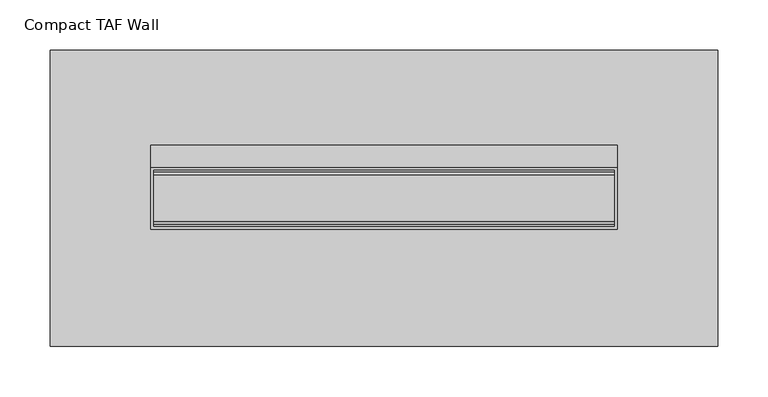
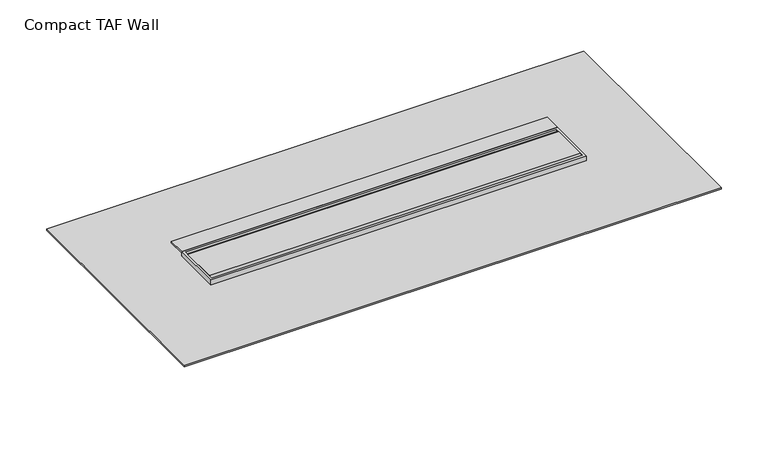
"""IFC4 building model written with IfcOpenShell, lengths in millimetres: sanitary terminal geometry, NLRS_PF_52_UN_Compact TAF_Easydrain : Compact TAF Wall."""

import ifcopenshell
import ifcopenshell.guid

model = None  # the IFC model being written
_history = None  # IfcOwnerHistory: only IFC2X3 demands one
_inside = {}  # id of a spatial element -> (the spatial element, [elements in it])
_under = {}  # id of a project, library or spatial element -> (it, [spatial elements below it])
_declared = {}  # id of a project -> (the project, [libraries it declares])
_typed = {}  # id of a type object -> (the type object, [elements of that type])
_made_of = {}  # id of a material, layer set ... -> (it, [elements and type objects made of it])


def new_model(schema):
    """Start an empty IFC model of exactly this schema.

    Asked for "IFC4X3", IfcOpenShell would pick the latest addendum, in which some entities
    have other attributes; the version numbers below select the first issue.
    IFC2X3 requires an IfcOwnerHistory on every rooted entity: one is made here for all.
    """
    global model, _history
    if schema == "IFC4X3":
        model = ifcopenshell.file(schema_version=(4, 3, 0, 0))
    else:
        model = ifcopenshell.file(schema=schema)
    _inside.clear()
    _under.clear()
    _declared.clear()
    _typed.clear()
    _made_of.clear()
    _history = None
    if model.schema == "IFC2X3":
        org = make("IfcOrganization", Name="unknown")
        user = make(
            "IfcPersonAndOrganization",
            ThePerson=make("IfcPerson", FamilyName="unknown"),
            TheOrganization=org,
        )
        app = make(
            "IfcApplication",
            ApplicationDeveloper=org,
            Version="unknown",
            ApplicationFullName="unknown",
            ApplicationIdentifier="unknown",
        )
        _history = make(
            "IfcOwnerHistory",
            OwningUser=user,
            OwningApplication=app,
            ChangeAction="ADDED",
            CreationDate=0,
        )
    return model


def make(cls, **values):
    """One entity of the class cls with the attributes given. An attribute that is None is left unset."""
    return model.create_entity(
        cls, **{name: value for name, value in values.items() if value is not None}
    )


def rooted(cls, **values):
    """An entity with a GlobalId (a new one), such as an element, a storey or a relation."""
    return make(cls, GlobalId=ifcopenshell.guid.new(), OwnerHistory=_history, **values)


def si_unit(unit_type, name, prefix=None):
    """IfcSIUnit, for example si_unit("LENGTHUNIT", "METRE", prefix="MILLI")."""
    return make("IfcSIUnit", UnitType=unit_type, Prefix=prefix, Name=name)


def assignment(units):
    """IfcUnitAssignment: the units of a project."""
    return None if units is None else make("IfcUnitAssignment", Units=units)


def point(xyz):
    """IfcCartesianPoint."""
    return None if xyz is None else make("IfcCartesianPoint", Coordinates=xyz)


def direction(xyz):
    """IfcDirection."""
    return None if xyz is None else make("IfcDirection", DirectionRatios=xyz)


def frame(location, z_axis=None, x_axis=None):
    """IfcAxis2Placement3D, a coordinate frame: its origin and axes. An axis left out is left unset."""
    return make(
        "IfcAxis2Placement3D",
        Location=point(location),
        Axis=direction(z_axis),
        RefDirection=direction(x_axis),
    )


def frame_2d(location, x_axis=None):
    """IfcAxis2Placement2D, a coordinate frame in the plane: its origin and x axis."""
    return make(
        "IfcAxis2Placement2D", Location=point(location), RefDirection=direction(x_axis)
    )


def origin():
    """The frame at (0, 0, 0) with its axes left unset."""
    return frame((0.0, 0.0, 0.0))


def place(relative_to, where):
    """IfcLocalPlacement: puts the frame where relative to a parent placement (None: the world)."""
    return make(
        "IfcLocalPlacement", PlacementRelTo=relative_to, RelativePlacement=where
    )


def context(
    kind, dimensions, precision=None, world=None, true_north=None, identifier=None
):
    """IfcGeometricRepresentationContext, for example the 3D "Model" context."""
    return make(
        "IfcGeometricRepresentationContext",
        ContextIdentifier=identifier,
        ContextType=kind,
        CoordinateSpaceDimension=dimensions,
        Precision=precision,
        WorldCoordinateSystem=world,
        TrueNorth=true_north,
    )


def project(units=None, contexts=None):
    """IfcProject with its units and contexts."""
    return rooted(
        "IfcProject",
        Name="project",
        RepresentationContexts=contexts,
        UnitsInContext=assignment(units),
    )


def spatial(cls, under=None, at=None, **own):
    """A site, building, storey or space (cls), placed at a placement, below another one or the project."""
    s = rooted(cls, ObjectPlacement=at, **own)
    if under is not None:
        _under.setdefault(under.id(), (under, []))[1].append(s)
    return s


def polyline(points):
    """IfcPolyline through the points."""
    return make("IfcPolyline", Points=[point(p) for p in points])


def circle_curve(where, radius):
    """IfcCircle in the frame where."""
    return make("IfcCircle", Position=where, Radius=radius)


def ellipse_curve(where, semi_axis1, semi_axis2):
    """IfcEllipse in the frame where."""
    return make(
        "IfcEllipse", Position=where, SemiAxis1=semi_axis1, SemiAxis2=semi_axis2
    )


def trimmed(basis, trim1, trim2, sense, master):
    """IfcTrimmedCurve: the piece of a basis curve between two trims."""
    return make(
        "IfcTrimmedCurve",
        BasisCurve=basis,
        Trim1=trim1,
        Trim2=trim2,
        SenseAgreement=sense,
        MasterRepresentation=master,
    )


def segment(curve, same_sense, transition):
    """IfcCompositeCurveSegment."""
    return make(
        "IfcCompositeCurveSegment",
        Transition=transition,
        SameSense=same_sense,
        ParentCurve=curve,
    )


def composite_curve(segments, self_intersect=None):
    """IfcCompositeCurve: segments joined end to end."""
    return make("IfcCompositeCurve", Segments=segments, SelfIntersect=self_intersect)


def outline(outer, holes=None, kind="AREA"):
    """IfcArbitraryClosedProfileDef: a profile drawn as a closed curve; with holes, ...WithVoids."""
    if holes is None:
        return make("IfcArbitraryClosedProfileDef", ProfileType=kind, OuterCurve=outer)
    return make(
        "IfcArbitraryProfileDefWithVoids",
        ProfileType=kind,
        OuterCurve=outer,
        InnerCurves=holes,
    )


def extrude(swept, where, along, depth):
    """IfcExtrudedAreaSolid: the profile swept, set in the frame where, extruded along a direction by depth."""
    return make(
        "IfcExtrudedAreaSolid",
        SweptArea=swept,
        Position=where,
        ExtrudedDirection=direction(along),
        Depth=depth,
    )


def shape(context_of_items, identifier, shape_type, items):
    """IfcShapeRepresentation: the items that make up one representation, for example the "Body"."""
    return make(
        "IfcShapeRepresentation",
        ContextOfItems=context_of_items,
        RepresentationIdentifier=identifier,
        RepresentationType=shape_type,
        Items=items,
    )


def source(mapping_origin, context_of_items, identifier, shape_type, items):
    """IfcRepresentationMap: a shape defined once, which mapped items show again and again."""
    return make(
        "IfcRepresentationMap",
        MappingOrigin=mapping_origin,
        MappedRepresentation=shape(context_of_items, identifier, shape_type, items),
    )


def transform(
    local_origin,
    x_axis=None,
    y_axis=None,
    z_axis=None,
    scale=None,
    scale2=None,
    scale3=None,
    uniform=True,
):
    """IfcCartesianTransformationOperator3D, or its non-uniform kind. x_axis, y_axis, z_axis: its Axis1, 2, 3."""
    if uniform:
        return make(
            "IfcCartesianTransformationOperator3D",
            Axis1=direction(x_axis),
            Axis2=direction(y_axis),
            LocalOrigin=point(local_origin),
            Scale=scale,
            Axis3=direction(z_axis),
        )
    return make(
        "IfcCartesianTransformationOperator3DnonUniform",
        Axis1=direction(x_axis),
        Axis2=direction(y_axis),
        LocalOrigin=point(local_origin),
        Scale=scale,
        Axis3=direction(z_axis),
        Scale2=scale2,
        Scale3=scale3,
    )


def mapped(mapping_source, mapping_target):
    """IfcMappedItem: shows the shape of a source again, moved by a transform."""
    return make(
        "IfcMappedItem", MappingSource=mapping_source, MappingTarget=mapping_target
    )


def made_of(thing, what):
    """Note that an element or type object is made of a material, layer set ...; save() writes the relation."""
    if what is not None:
        _made_of.setdefault(what.id(), (what, []))[1].append(thing)
    return thing


def element(
    cls,
    number,
    at=None,
    inside=None,
    cuts=None,
    type_object=None,
    material=None,
    context=None,
    identifier="Body",
    shape_type=None,
    held_by="IfcProductDefinitionShape",
    body=None,
    shapes=None,
    **own,
):
    """One element of the class cls, such as IfcWall. Its Tag is "e" and its number.

    at: its placement. inside: the storey or other place that contains it. cuts: it is an
    opening in that element (IfcRelVoidsElement). A single representation is given by context,
    identifier, shape_type and body (its items); several are given by shapes. held_by: the class
    of the entity that holds the representations. save() writes the other relations.
    """
    e = rooted(cls, Tag="e%d" % number, ObjectPlacement=at, **own)
    if body is not None:
        shapes = [shape(context, identifier, shape_type, body)]
    if shapes is not None:
        e.Representation = make(held_by, Representations=shapes)
    if inside is not None:
        _inside.setdefault(inside.id(), (inside, []))[1].append(e)
    if cuts is not None:
        rooted(
            "IfcRelVoidsElement", RelatingBuildingElement=cuts, RelatedOpeningElement=e
        )
    if type_object is not None:
        _typed.setdefault(type_object.id(), (type_object, []))[1].append(e)
    return made_of(e, material)


def aggregate(whole, parts):
    """IfcRelAggregates: a whole, such as a stair, and the parts it consists of."""
    return rooted("IfcRelAggregates", RelatingObject=whole, RelatedObjects=parts)


def save(model, path):
    """Write the relations noted so far, then the file.

    IfcRelAggregates (storeys below a building ...), IfcRelContainedInSpatialStructure (elements
    in a storey), IfcRelDefinesByType, IfcRelAssociatesMaterial and IfcRelDeclares: one each for
    every whole, place, type object, material and project.
    """
    for whole, parts in _under.values():
        aggregate(whole, parts)
    for where, things in _inside.values():
        rooted(
            "IfcRelContainedInSpatialStructure",
            RelatedElements=things,
            RelatingStructure=where,
        )
    for kind, things in _typed.values():
        rooted("IfcRelDefinesByType", RelatedObjects=things, RelatingType=kind)
    for what, things in _made_of.values():
        rooted("IfcRelAssociatesMaterial", RelatedObjects=things, RelatingMaterial=what)
    for by, libraries in _declared.values():
        rooted("IfcRelDeclares", RelatingContext=by, RelatedDefinitions=libraries)
    model.write(path)


def plane_surface(at):
    """IfcPlane: the flat surface through the origin of the frame at, square to its z axis."""
    return make("IfcPlane", Position=at)


def cylinder_surface(at, radius):
    """IfcCylindricalSurface: all points at the distance radius from the z axis of the frame at."""
    return make("IfcCylindricalSurface", Position=at, Radius=radius)


def advanced_brep(points, edges, surfaces, faces):
    """IfcAdvancedBrep: a solid bounded by faces that lie on surfaces and meet in shared edges.

    An edge is (start, end): straight between two places in points (the first is 0);
    or (start, end, curve); or (start, end, curve, False) where it runs against its curve.
    A face is (place in surfaces, loops), or (place, loops, False) where it looks against
    its surface's normal. A loop lists edges by number (the first is 1), with a minus sign
    where the edge is run from its end to its start. The first loop is the outer one.
    """
    corners = [point(p) for p in points]
    vertices = [make("IfcVertexPoint", VertexGeometry=c) for c in corners]
    made = []
    for start, end, *more in edges:
        made.append(
            make(
                "IfcEdgeCurve",
                EdgeStart=vertices[start],
                EdgeEnd=vertices[end],
                EdgeGeometry=more[0] if more else make("IfcPolyline", Points=[corners[start], corners[end]]),
                SameSense=more[1] if len(more) > 1 else True,
            )
        )
    hull = []
    for where, loops, *sense in faces:
        bounds = []
        for j, loop in enumerate(loops):
            ring = [make("IfcOrientedEdge", EdgeElement=made[abs(k) - 1], Orientation=k > 0) for k in loop]
            bounds.append(
                make(
                    "IfcFaceOuterBound" if j == 0 else "IfcFaceBound",
                    Bound=make("IfcEdgeLoop", EdgeList=ring),
                    Orientation=True,
                )
            )
        hull.append(make("IfcAdvancedFace", Bounds=bounds, FaceSurface=surfaces[where], SameSense=sense[0] if sense else True))
    return make("IfcAdvancedBrep", Outer=make("IfcClosedShell", CfsFaces=hull))


def compact_taf_wall_cdf960c3(model_context):
    return source(origin(), model_context, "Body", "SolidModel", [
        extrude(outline(composite_curve([segment(polyline([(-23.0, 0.0), (23.0, 0.0)]), True, "CONTINUOUS"), segment(trimmed(circle_curve(frame_2d((23.0, -3.0)), 3.0), [point((23.0, 0.0))], [point((26.0, -3.0))], False, "CARTESIAN"), True, "CONTINUOUS"), segment(polyline([(26.0, -3.0), (26.0, -12.0), (-26.0, -12.0), (-26.0, -3.0)]), True, "CONTINUOUS"), segment(trimmed(circle_curve(frame_2d((-23.0, -3.0)), 3.0), [point((-26.0, -3.0))], [point((-23.0, 0.0))], False, "CARTESIAN"), True, "CONTINUOUS")], self_intersect=False)), frame((-229.5, 0.0, 0.0), z_axis=(1.0, 0.0, 0.0), x_axis=(0.0, 1.0, 0.0)), (0.0, 0.0, 1.0), 459.0),
        extrude(outline(polyline([(232.5, 53.0), (232.5, 31.0), (-232.5, 31.0), (-232.5, 53.0), (232.5, 53.0)])), frame((0.0, 0.0, -2.0), z_axis=(0.0, 0.0, 1.0), x_axis=(1.0, 0.0, 0.0)), (0.0, 0.0, 1.0), 2.0),
        extrude(outline(polyline([(332.5, 147.5), (332.5, -147.5), (-332.5, -147.5), (-332.5, 147.5), (332.5, 147.5)]), holes=[polyline([(232.5, 31.0), (-232.5, 31.0), (-232.5, -31.0), (232.5, -31.0), (232.5, 31.0)])]), frame((0.0, 0.0, -8.0), z_axis=(0.0, 0.0, 1.0), x_axis=(1.0, 0.0, 0.0)), (0.0, 0.0, 1.0), 2.0),
        advanced_brep(
        [(-232.5, -31.0, -25.0), (-110.0, -31.0, -27.0), (-110.0, -31.0, -70.0), (110.0, -31.0, -70.0), (110.0, -31.0, -27.0), (232.5, -31.0, -25.0), (232.5, -31.0, -9.0), (-232.5, -31.0, -9.0), (0.0, -31.0, -25.0), (0.0, -31.0, -65.0), (232.5, -31.0, 0.0), (-232.5, -31.0, 0.0), (-232.5, -31.0, -7.0), (232.5, -31.0, -7.0), (-232.5, 31.0, 0.0), (232.5, 31.0, 0.0), (232.5, 31.0, -7.0), (-232.5, 31.0, -7.0), (232.5, 31.0, -25.0), (110.0, 31.0, -27.0), (110.0, 31.0, -70.0), (-110.0, 31.0, -70.0), (-110.0, 31.0, -27.0), (-232.5, 31.0, -25.0), (-232.5, 31.0, -9.0), (232.5, 31.0, -9.0), (-212.5, 0.0, -25.3265306), (-172.5, 0.0, -25.9795918), (232.5, 30.0, -9.0), (232.5, -30.0, -9.0), (232.5, -30.0, -7.0), (232.5, 30.0, -7.0), (-229.5, 28.0, 0.0), (229.5, 28.0, 0.0), (229.5, -28.0, 0.0), (-229.5, -28.0, 0.0), (-232.5, -30.0, -9.0), (-232.5, 30.0, -9.0), (-232.5, 30.0, -7.0), (-232.5, -30.0, -7.0), (172.5, 0.0, -25.9795918), (212.5, 0.0, -25.3265306), (0.0, -50.0, -25.0), (0.0, -50.0, -65.0), (229.5, 28.0, -12.0), (-229.5, 28.0, -12.0), (-229.5, -28.0, -12.0), (229.5, -28.0, -12.0), (250.0, 47.5, -7.0), (-250.0, 47.5, -7.0), (-250.0, -64.5, -7.0), (250.0, -64.5, -7.0), (250.0, 47.5, -9.0), (250.0, -64.5, -9.0), (-250.0, -64.5, -9.0), (-250.0, 47.5, -9.0), (-212.5, 0.0, -70.0), (-172.5, 0.0, -70.0), (172.5, 0.0, -70.0), (212.5, 0.0, -70.0)],
        [
            (0, 1),
            (1, 2),
            (2, 3),
            (3, 4),
            (4, 5),
            (5, 6),
            (6, 7),
            (7, 0),
            (8, 9, circle_curve(frame((0.0, -31.0, -45.0), z_axis=(0.0, 1.0, 0.0), x_axis=(0.0, 0.0, -1.0)), 20.0)),
            (9, 8, circle_curve(frame((0.0, -31.0, -45.0), z_axis=(0.0, 1.0, 0.0), x_axis=(0.0, 0.0, -1.0)), 20.0)),
            (10, 11),
            (11, 12),
            (12, 13),
            (13, 10),
            (14, 15),
            (15, 16),
            (16, 17),
            (17, 14),
            (18, 19),
            (19, 20),
            (20, 21),
            (21, 22),
            (22, 23),
            (23, 24),
            (24, 25),
            (25, 18),
            (0, 23),
            (22, 1),
            (26, 27, ellipse_curve(frame((-192.5, 0.0, -25.6530612), z_axis=(0.01632435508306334, 0.0, 0.9998667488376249), x_axis=(-0.9998667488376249, 0.0, 0.01632435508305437)), 20.0026654, 20.0)),
            (27, 26, ellipse_curve(frame((-192.5, 0.0, -25.6530612), z_axis=(0.01632435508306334, 0.0, 0.9998667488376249), x_axis=(-0.9998667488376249, 0.0, 0.01632435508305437)), 20.0026654, 20.0)),
            (5, 18),
            (25, 28),
            (28, 29),
            (29, 6),
            (15, 10),
            (13, 30),
            (30, 31),
            (31, 16),
            (14, 11),
            (32, 33),
            (33, 34),
            (34, 35),
            (35, 32),
            (7, 36),
            (36, 37),
            (37, 24),
            (17, 38),
            (38, 39),
            (39, 12),
            (21, 2),
            (20, 3),
            (19, 4),
            (40, 41, ellipse_curve(frame((192.5, 0.0, -25.6530612), z_axis=(-0.016324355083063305, 0.0, 0.9998667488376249), x_axis=(0.9998667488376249, 0.0, 0.016324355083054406)), 20.0026654, 20.0)),
            (41, 40, ellipse_curve(frame((192.5, 0.0, -25.6530612), z_axis=(-0.016324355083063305, 0.0, 0.9998667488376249), x_axis=(0.9998667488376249, 0.0, 0.016324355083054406)), 20.0026654, 20.0)),
            (42, 43, circle_curve(frame((0.0, -50.0, -45.0), z_axis=(0.0, -1.0, 0.0), x_axis=(0.0, 0.0, -1.0)), 20.0)),
            (43, 42, circle_curve(frame((0.0, -50.0, -45.0), z_axis=(0.0, -1.0, 0.0), x_axis=(0.0, 0.0, -1.0)), 20.0)),
            (43, 9),
            (8, 42),
            (44, 45),
            (45, 46),
            (46, 47),
            (47, 44),
            (44, 33),
            (32, 45),
            (35, 46),
            (34, 47),
            (48, 49),
            (49, 50),
            (50, 51),
            (51, 48),
            (52, 53),
            (53, 54),
            (54, 55),
            (55, 52),
            (48, 52),
            (55, 49),
            (54, 50),
            (53, 51),
            (56, 57, circle_curve(frame((-192.5, 0.0, -70.0), z_axis=(0.0, 0.0, -1.0), x_axis=(1.0, 0.0, 0.0)), 20.0)),
            (57, 56, circle_curve(frame((-192.5, 0.0, -70.0), z_axis=(0.0, 0.0, -1.0), x_axis=(1.0, 0.0, 0.0)), 20.0)),
            (58, 59, circle_curve(frame((192.5, 0.0, -70.0), z_axis=(0.0, 0.0, -1.0), x_axis=(1.0, 0.0, 0.0)), 20.0)),
            (59, 58, circle_curve(frame((192.5, 0.0, -70.0), z_axis=(0.0, 0.0, -1.0), x_axis=(1.0, 0.0, 0.0)), 20.0)),
            (57, 27),
            (26, 56),
            (59, 41),
            (40, 58),
        ],
        [
            plane_surface(frame((-232.5, -31.0, -25.0), z_axis=(0.0, -1.0000000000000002, 0.0), x_axis=(0.9998667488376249, 0.0, -0.01632435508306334))),
            plane_surface(frame((-232.5, 31.0, -25.0), z_axis=(0.0, 1.0000000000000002, 0.0), x_axis=(-0.9998667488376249, 0.0, 0.01632435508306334))),
            plane_surface(frame((-232.5, -31.0, -25.0), z_axis=(-0.01632435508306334, 0.0, -0.9998667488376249), x_axis=(0.0, 1.0, 0.0))),
            plane_surface(frame((232.5, -31.0, -25.0), z_axis=(1.0, 0.0, 0.0), x_axis=(0.0, 1.0, 0.0))),
            plane_surface(frame((232.5, -31.0, 0.0), z_axis=(0.0, 0.0, 1.0), x_axis=(0.0, 1.0, 0.0))),
            plane_surface(frame((-232.5, -31.0, 0.0), z_axis=(-1.0, 0.0, 0.0), x_axis=(0.0, 1.0, 0.0))),
            plane_surface(frame((-110.0, -31.0, -27.0), z_axis=(-1.0, 0.0, 0.0), x_axis=(0.0, 1.0, 0.0))),
            plane_surface(frame((-110.0, -31.0, -70.0), z_axis=(0.0, 0.0, -1.0), x_axis=(0.0, 1.0, 0.0))),
            plane_surface(frame((110.0, -31.0, -70.0), z_axis=(1.0, 0.0, 0.0), x_axis=(0.0, 1.0, 0.0))),
            plane_surface(frame((110.0, -31.0, -27.0), z_axis=(0.016324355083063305, 0.0, -0.9998667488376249), x_axis=(0.0, 1.0, 0.0))),
            plane_surface(frame((0.0, -50.0, -45.0), z_axis=(0.0, -1.0, 0.0), x_axis=(1.0, 0.0, 0.0))),
            cylinder_surface(frame((0.0, 0.0, -45.0), z_axis=(0.0, 1.0, 0.0), x_axis=(0.0, 0.0, -1.0)), 20.0),
            plane_surface(frame((-229.5, 28.0, -12.0), z_axis=(0.0, 0.0, 1.0), x_axis=(1.0, 0.0, 0.0))),
            plane_surface(frame((229.5, 28.0, 25.5943996), z_axis=(0.0, -1.0, 0.0), x_axis=(0.0, 0.0, -1.0))),
            plane_surface(frame((-229.5, 28.0, 25.5943996), z_axis=(1.0, 0.0, 0.0), x_axis=(0.0, 0.0, -1.0))),
            plane_surface(frame((-229.5, -28.0, 25.5943996), z_axis=(0.0, 1.0, 0.0), x_axis=(0.0, 0.0, -1.0))),
            plane_surface(frame((229.5, -28.0, 25.5943996), z_axis=(-1.0, 0.0, 0.0), x_axis=(0.0, 0.0, -1.0))),
            plane_surface(frame((232.5, 30.0, -7.0), z_axis=(0.0, 0.0, 1.0), x_axis=(0.0, -1.0, 0.0))),
            plane_surface(frame((232.5, 30.0, -9.0), z_axis=(0.0, 0.0, -1.0), x_axis=(0.0, 1.0, 0.0))),
            plane_surface(frame((250.0, 47.5, -7.0), z_axis=(0.0, 1.0, 0.0), x_axis=(0.0, 0.0, -1.0))),
            plane_surface(frame((-250.0, 47.5, -7.0), z_axis=(-1.0, 0.0, 0.0), x_axis=(0.0, 0.0, -1.0))),
            plane_surface(frame((-250.0, -64.5, -7.0), z_axis=(0.0, -1.0, 0.0), x_axis=(0.0, 0.0, -1.0))),
            plane_surface(frame((250.0, -64.5, -7.0), z_axis=(1.0, 0.0, 0.0), x_axis=(0.0, 0.0, -1.0))),
            plane_surface(frame((-172.5, 0.0, -70.0), z_axis=(0.0, 0.0, -1.0), x_axis=(0.0, -1.0, 0.0))),
            cylinder_surface(frame((-192.5, 0.0, -70.0), z_axis=(0.0, 0.0, 1.0), x_axis=(1.0, 0.0, 0.0)), 20.0),
            cylinder_surface(frame((192.5, 0.0, 0.0), z_axis=(0.0, 0.0, 1.0), x_axis=(1.0, 0.0, 0.0)), 20.0),
        ],
        [
            (0, [[1, 2, 3, 4, 5, 6, 7, 8], [9, 10]]),
            (0, [[11, 12, 13, 14]]),
            (1, [[15, 16, 17, 18]]),
            (1, [[19, 20, 21, 22, 23, 24, 25, 26]]),
            (2, [[-1, 27, -23, 28], [29, 30]]),
            (3, [[31, -26, 32, 33, 34, -6]]),
            (3, [[35, -14, 36, 37, 38, -16]]),
            (4, [[-11, -35, -15, 39], [40, 41, 42, 43]]),
            (5, [[-27, -8, 44, 45, 46, -24]]),
            (5, [[-39, -18, 47, 48, 49, -12]]),
            (6, [[-2, -28, -22, 50]]),
            (7, [[-3, -50, -21, 51]]),
            (8, [[-4, -51, -20, 52]]),
            (9, [[-5, -52, -19, -31], [53, 54]]),
            (10, [[55, 56]]),
            (11, [[-56, 57, -9, 58]]),
            (11, [[-55, -58, -10, -57]]),
            (12, [[59, 60, 61, 62]]),
            (13, [[-59, 63, -40, 64]]),
            (14, [[-60, -64, -43, 65]]),
            (15, [[-61, -65, -42, 66]]),
            (16, [[-62, -66, -41, -63]]),
            (17, [[67, 68, 69, 70], [-13, -49, -48, -47, -17, -38, -37, -36]]),
            (18, [[71, 72, 73, 74], [-7, -34, -33, -32, -25, -46, -45, -44]]),
            (19, [[-67, 75, -74, 76]]),
            (20, [[-68, -76, -73, 77]]),
            (21, [[-69, -77, -72, 78]]),
            (22, [[-70, -78, -71, -75]]),
            (23, [[79, 80]]),
            (23, [[81, 82]]),
            (24, [[-80, 83, -29, 84]]),
            (24, [[-79, -84, -30, -83]]),
            (25, [[-82, 85, -53, 86]]),
            (25, [[-81, -86, -54, -85]]),
        ],
    ),
    ])


if __name__ == "__main__":
    model = new_model("IFC4")
    model_context = context("Model", 3, world=origin())
    ifc_project = project(units=[si_unit("LENGTHUNIT", "METRE", prefix="MILLI")], contexts=[model_context])
    site = spatial("IfcSite", under=ifc_project)
    building = spatial("IfcBuilding", under=site)
    placement = place(None, origin())
    compact_taf_wall_shape = compact_taf_wall_cdf960c3(model_context)
    element("IfcSanitaryTerminal", 1, ObjectType="NLRS_PF_52_UN_Compact TAF_Easydrain : Compact TAF Wall", at=placement, inside=building, context=model_context, shape_type="MappedRepresentation", body=[
        mapped(compact_taf_wall_shape, transform((0.0, 0.0, 0.0), x_axis=(1.0, 0.0, 0.0), y_axis=(0.0, 1.0, 0.0), z_axis=(0.0, 0.0, 1.0))),
    ])
    save(model, "model.ifc")
